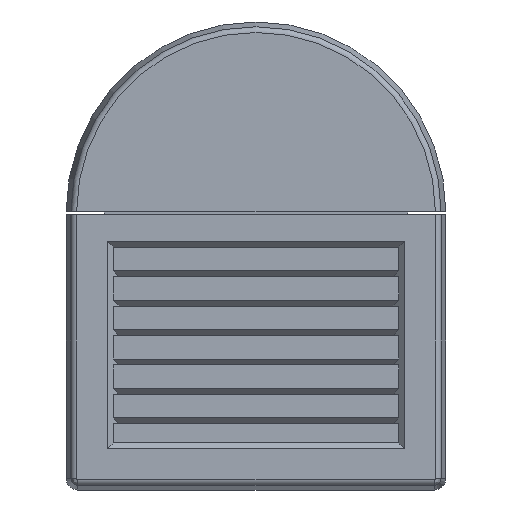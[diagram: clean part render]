
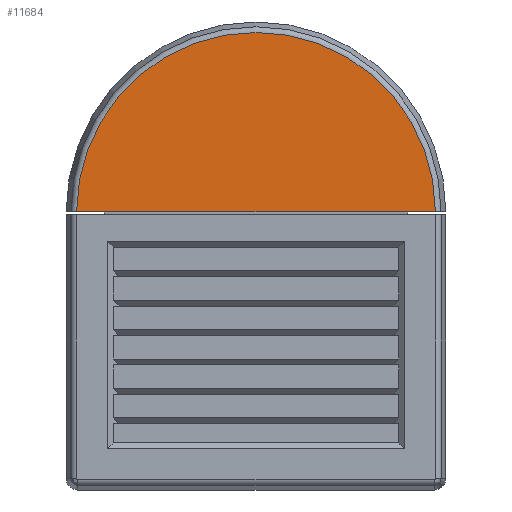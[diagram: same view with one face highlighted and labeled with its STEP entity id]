
A CAD part, front view. The second image highlights one B-rep face of the part: STEP entity #11684.
In plain terms, the highlighted planar face has unit normal (0, -1, 0).
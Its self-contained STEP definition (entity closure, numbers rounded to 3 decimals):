
#1020=LINE('',#17766,#2485);
#2485=VECTOR('',#14420,10.);
#3495=PLANE('',#12461);
#4086=FACE_OUTER_BOUND('',#4722,.T.);
#4722=EDGE_LOOP('',(#10179,#10180));
#5032=CIRCLE('',#12362,30.469);
#5699=VERTEX_POINT('',#17758);
#5701=VERTEX_POINT('',#17762);
#7127=EDGE_CURVE('',#5699,#5701,#5032,.T.);
#7128=EDGE_CURVE('',#5701,#5699,#1020,.T.);
#10179=ORIENTED_EDGE('',*,*,#7127,.T.);
#10180=ORIENTED_EDGE('',*,*,#7128,.T.);
#11684=ADVANCED_FACE('',(#4086),#3495,.T.);
#12362=AXIS2_PLACEMENT_3D('',#17764,#14416,#14417);
#12461=AXIS2_PLACEMENT_3D('',#18244,#14821,#14822);
#14416=DIRECTION('center_axis',(0.,-1.,0.));
#14417=DIRECTION('ref_axis',(0.,0.,
1.));
#14420=DIRECTION('',(1.,0.,0.));
#14821=DIRECTION('center_axis',(0.,-1.,0.));
#14822=DIRECTION('ref_axis',(-1.,0.,0.));
#17758=CARTESIAN_POINT('',(30.469,-84.,0.));
#17762=CARTESIAN_POINT('',(-30.469,-84.,0.));
#17764=CARTESIAN_POINT('Origin',(0.,-84.,0.));
#17766=CARTESIAN_POINT('',(-32.25,-84.,0.));
#18244=CARTESIAN_POINT('Origin',(0.,-84.,-7.5));
